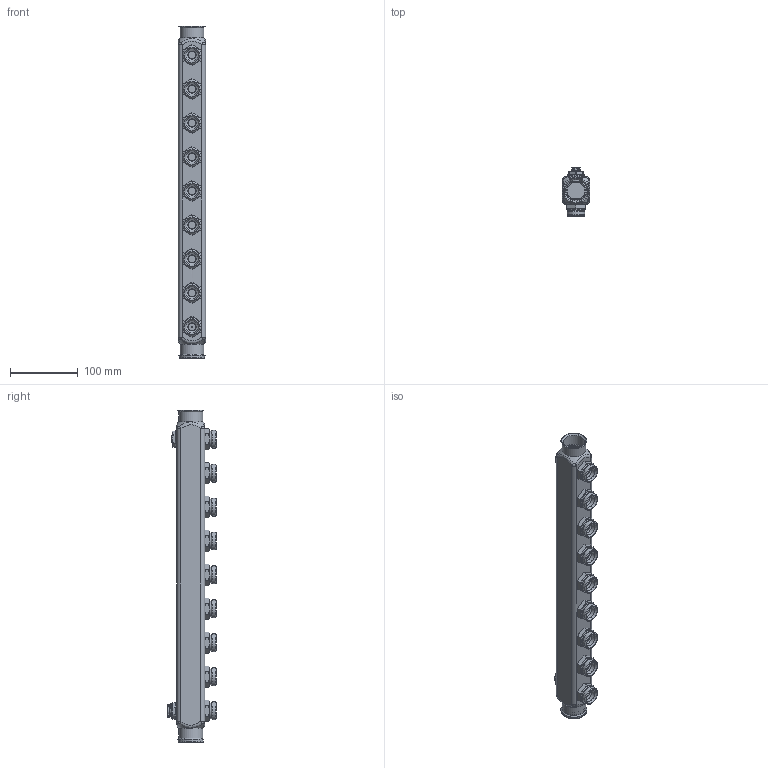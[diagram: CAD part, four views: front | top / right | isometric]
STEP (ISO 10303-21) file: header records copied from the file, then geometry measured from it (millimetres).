
FILE_DESCRIPTION(('STEP AP203'), '1');
FILE_NAME('VTc.505.SQ.060509', '2026-02-20T10:30:30', ('verevichevva'), ('Vesta'), 'C3D Converter', 'C3D Toolkit', '');
FILE_SCHEMA(('CONFIG_CONTROL_DESIGN'));
Length unit declared in the file: millimetre
Products named in the file (1): ВР.622621.190.000 СБ
Bounding box: 40 x 71.6 x 488.5 mm (x, y, z)
Volume: 196924.4 mm3; surface area: 198249.1 mm2
Topology: 27 solids, 27 shells, 1047 faces, 2486 edges, 1529 vertices
Faces by surface type: plane 368, cone 220, cylinder 165, extrusion 118, torus 104, bspline 72
Full cylindrical faces by diameter (mm): 1.6 x1, 2.3 x1, 3.4 x1, 4.134 x1, 5 x1, 5.3 x1, 6.3 x2, 9.6 x1, 10.2 x1, 11 x9, 12.5 x9, 13 x1, 14 x1, 15.7 x1, 18 x10, 18.1 x9, 18.5 x1, 19 x10, 19.294 x1, 19.5 x2, 20 x1, 20.955 x11, 22 x1, 22.2 x11, 23 x1, 23.5 x9, 24 x1, 25.5 x1, 26 x1, 26.441 x9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
Entity records: 40646 total; most frequent: CARTESIAN_POINT 19131, ORIENTED_EDGE 4336, DIRECTION 3936, EDGE_CURVE 2168, AXIS2_PLACEMENT_3D 1526, VERTEX_POINT 1502, EDGE_LOOP 1398, ADVANCED_FACE 1035
